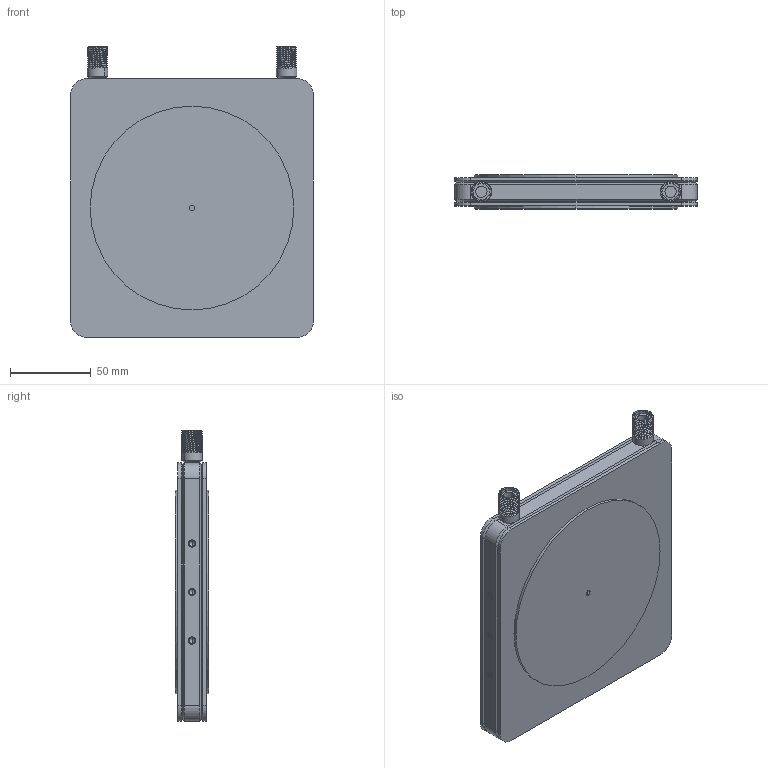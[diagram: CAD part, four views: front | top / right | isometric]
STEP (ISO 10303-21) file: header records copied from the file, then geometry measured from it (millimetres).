
FILE_DESCRIPTION (( 'STEP AP214' ), '1' );
FILE_NAME ('迓鑰126_摎蓲瀇僔蠂罻.STEP', '2025-08-06T15:31:44', ( '' ), ( '' ), 'SwSTEP 2.0', 'SolidWorks 2024', '' );
FILE_SCHEMA (( 'AUTOMOTIVE_DESIGN' ));
Length unit declared in the file: millimetre
Products named in the file (4): кастомный_ниппель; крышка верхняя; корпус; НОЖ_126_без_пластика
Assembly tree (5 placements, depth 2):
  НОЖ_126_без_пластика
    корпус
    кастомный_ниппель  x2
    крышка верхняя  x2
Bounding box: 150 x 21 x 179.85 mm (x, y, z)
Volume: 350355 mm3; surface area: 193193.5 mm2
Topology: 5 solids, 5 shells, 1162 faces, 3190 edges, 2052 vertices
Faces by surface type: cylinder 664, plane 406, cone 40, bspline 36, torus 16
Entity records: 42981 total; most frequent: CARTESIAN_POINT 23678, ORIENTED_EDGE 4436, DIRECTION 3668, EDGE_CURVE 2218, VERTEX_POINT 1433, AXIS2_PLACEMENT_3D 1273, VECTOR 1122, LINE 1122
